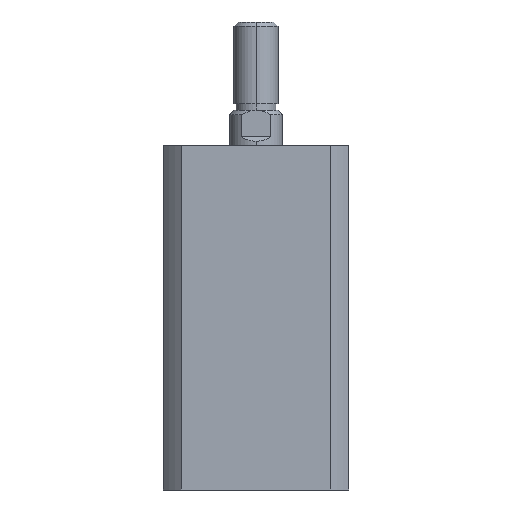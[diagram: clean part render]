
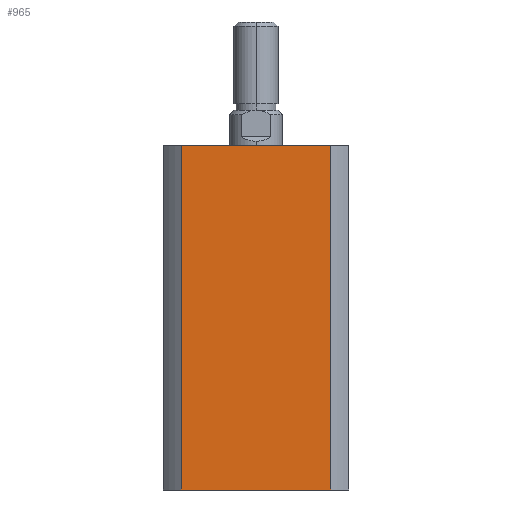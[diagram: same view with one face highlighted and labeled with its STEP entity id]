
A CAD part, left-side view. The second image highlights one B-rep face of the part: STEP entity #965.
In plain terms, the highlighted planar face has unit normal (-1, 0, 0).
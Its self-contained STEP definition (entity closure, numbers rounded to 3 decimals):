
#394 = CARTESIAN_POINT ( 'NONE',  ( -21., -16.971, 0. ) ) ;
#482 = CARTESIAN_POINT ( 'NONE',  ( -21., 16.971, 78. ) ) ;
#569 = CARTESIAN_POINT ( 'NONE',  ( -21., -16.971, 78. ) ) ;
#600 = CARTESIAN_POINT ( 'NONE',  ( -21., 16.971, 0. ) ) ;
#791 = DIRECTION ( 'NONE',  ( 0., 1., 0. ) ) ;
#792 = DIRECTION ( 'NONE',  ( 1., 0., 0. ) ) ;
#794 = PLANE ( 'NONE',  #4482 ) ;
#800 = CARTESIAN_POINT ( 'NONE',  ( -21., 21., 78. ) ) ;
#965 = ADVANCED_FACE ( 'NONE', ( #2652 ), #794, .F. ) ;
#1327 = ORIENTED_EDGE ( 'NONE', *, *, #3593, .T. ) ;
#1328 = ORIENTED_EDGE ( 'NONE', *, *, #3341, .F. ) ;
#1329 = ORIENTED_EDGE ( 'NONE', *, *, #3326, .F. ) ;
#1330 = ORIENTED_EDGE ( 'NONE', *, *, #3342, .F. ) ;
#1591 = EDGE_LOOP ( 'NONE', ( #1330, #1329, #1328, #1327 ) ) ;
#2069 = VERTEX_POINT ( 'NONE', #600 ) ;
#2096 = VERTEX_POINT ( 'NONE', #569 ) ;
#2171 = VERTEX_POINT ( 'NONE', #482 ) ;
#2249 = VERTEX_POINT ( 'NONE', #394 ) ;
#2378 = VECTOR ( 'NONE', #4933, 1000. ) ;
#2380 = LINE ( 'NONE', #4927, #2378 ) ;
#2416 = VECTOR ( 'NONE', #5010, 1000. ) ;
#2418 = VECTOR ( 'NONE', #5012, 1000. ) ;
#2419 = LINE ( 'NONE', #5011, #2416 ) ;
#2421 = LINE ( 'NONE', #5013, #2418 ) ;
#2442 = VECTOR ( 'NONE', #5073, 1000. ) ;
#2445 = LINE ( 'NONE', #5065, #2442 ) ;
#2652 = FACE_OUTER_BOUND ( 'NONE', #1591, .T. ) ;
#3326 = EDGE_CURVE ( 'NONE', #2171, #2096, #2445, .T. ) ;
#3341 = EDGE_CURVE ( 'NONE', #2069, #2171, #2421, .T. ) ;
#3342 = EDGE_CURVE ( 'NONE', #2096, #2249, #2419, .T. ) ;
#3593 = EDGE_CURVE ( 'NONE', #2069, #2249, #2380, .T. ) ;
#4482 = AXIS2_PLACEMENT_3D ( 'NONE', #800, #792, #791 ) ;
#4927 = CARTESIAN_POINT ( 'NONE',  ( -21., 21., 0. ) ) ;
#4933 = DIRECTION ( 'NONE',  ( 0., -1., 0. ) ) ;
#5010 = DIRECTION ( 'NONE',  ( 0., 0., -1. ) ) ;
#5011 = CARTESIAN_POINT ( 'NONE',  ( -21., -16.971, 78. ) ) ;
#5012 = DIRECTION ( 'NONE',  ( 0., 0., 1. ) ) ;
#5013 = CARTESIAN_POINT ( 'NONE',  ( -21., 16.971, 78. ) ) ;
#5065 = CARTESIAN_POINT ( 'NONE',  ( -21., 21., 78. ) ) ;
#5073 = DIRECTION ( 'NONE',  ( 0., -1., 0. ) ) ;
